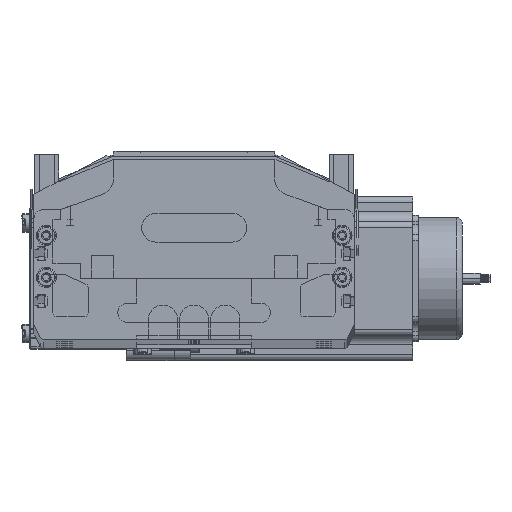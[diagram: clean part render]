
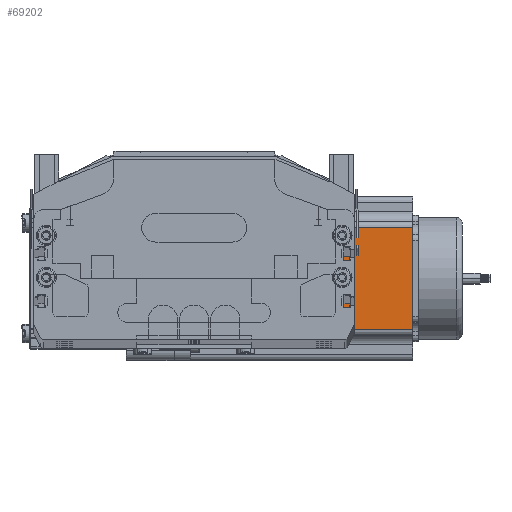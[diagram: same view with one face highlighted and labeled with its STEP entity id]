
A CAD part, top view. The second image highlights one B-rep face of the part: STEP entity #69202.
In plain terms, the highlighted planar face has unit normal (0, 0, 1) as drawn and (0, -1, 0) by its records, which use the part's own axes.
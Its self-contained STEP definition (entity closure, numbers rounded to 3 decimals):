
#12230 = CARTESIAN_POINT ( 'NONE',  ( 16.16, 0., 116.5 ) ) ;
#12458 = LINE ( 'NONE', #12230, #12729 ) ;
#12729 = VECTOR ( 'NONE', #12887, 1000. ) ;
#12887 = DIRECTION ( 'NONE',  ( 0., 0., -1. ) ) ;
#13450 = DIRECTION ( 'NONE',  ( 1., 0., 0. ) ) ;
#13451 = VECTOR ( 'NONE', #13450, 1000. ) ;
#13453 = CARTESIAN_POINT ( 'NONE',  ( 0., 0., 116.5 ) ) ;
#13455 = LINE ( 'NONE', #13453, #13451 ) ;
#13459 = DIRECTION ( 'NONE',  ( 1., 0., 0. ) ) ;
#13461 = VECTOR ( 'NONE', #13459, 1000. ) ;
#13462 = CARTESIAN_POINT ( 'NONE',  ( 0., 0., 0. ) ) ;
#13463 = LINE ( 'NONE', #13462, #13461 ) ;
#13747 = CARTESIAN_POINT ( 'NONE',  ( 16.16, 0., 0. ) ) ;
#60973 = CARTESIAN_POINT ( 'NONE',  ( 69.74, 0., 116.5 ) ) ;
#60981 = DIRECTION ( 'NONE',  ( 0., 0., 1. ) ) ;
#60985 = DIRECTION ( 'NONE',  ( 0., 1., 0. ) ) ;
#60987 = FACE_OUTER_BOUND ( 'NONE', #70348, .T. ) ;
#60996 = CARTESIAN_POINT ( 'NONE',  ( 69.74, 0., 0. ) ) ;
#60997 = CARTESIAN_POINT ( 'NONE',  ( 16.16, 0., 116.5 ) ) ;
#61019 = DIRECTION ( 'NONE',  ( 0., 0., 1. ) ) ;
#61020 = VECTOR ( 'NONE', #61019, 1000. ) ;
#61021 = CARTESIAN_POINT ( 'NONE',  ( 69.74, 0., 116.5 ) ) ;
#61022 = LINE ( 'NONE', #61021, #61020 ) ;
#61023 = AXIS2_PLACEMENT_3D ( 'NONE', #61027, #60985, #60981 ) ;
#61026 = PLANE ( 'NONE',  #61023 ) ;
#61027 = CARTESIAN_POINT ( 'NONE',  ( 0., 0., 116.5 ) ) ;
#69180 = VERTEX_POINT ( 'NONE', #60973 ) ;
#69188 = VERTEX_POINT ( 'NONE', #60997 ) ;
#69189 = EDGE_CURVE ( 'NONE', #69193, #69180, #61022, .T. ) ;
#69193 = VERTEX_POINT ( 'NONE', #60996 ) ;
#69202 = ADVANCED_FACE ( 'NONE', ( #60987 ), #61026, .F. ) ;
#70348 = EDGE_LOOP ( 'NONE', ( #70499, #70497, #70504, #70414 ) ) ;
#70414 = ORIENTED_EDGE ( 'NONE', *, *, #70509, .T. ) ;
#70494 = VERTEX_POINT ( 'NONE', #13747 ) ;
#70497 = ORIENTED_EDGE ( 'NONE', *, *, #69189, .T. ) ;
#70499 = ORIENTED_EDGE ( 'NONE', *, *, #70502, .T. ) ;
#70502 = EDGE_CURVE ( 'NONE', #70494, #69193, #13463, .T. ) ;
#70504 = ORIENTED_EDGE ( 'NONE', *, *, #70506, .F. ) ;
#70506 = EDGE_CURVE ( 'NONE', #69188, #69180, #13455, .T. ) ;
#70509 = EDGE_CURVE ( 'NONE', #69188, #70494, #12458, .T. ) ;
